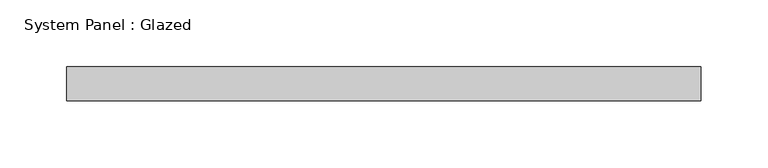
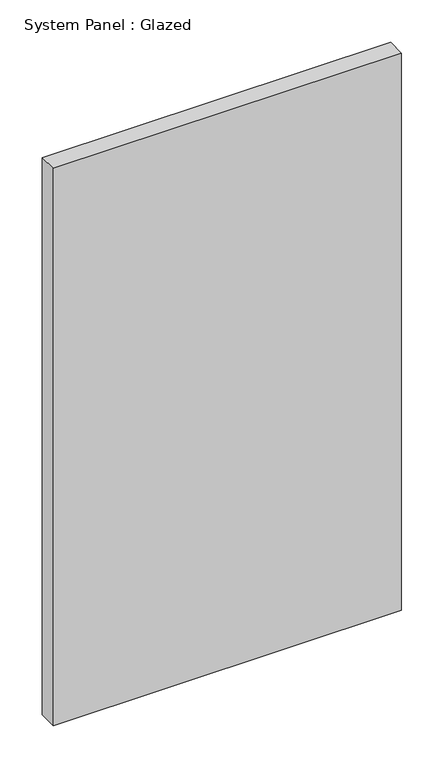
"""IFC4 building model written with IfcOpenShell, lengths in millimetres: plate geometry, System Panel : Glazed."""

from ifc_helpers import new_model, si_unit, origin, origin_with_axes, place, context, project, spatial, polyline, outline, extrude, source, transform, mapped, element, save


def system_panel_glazed_badf3451(model_context):
    return source(origin(), model_context, "Body", "SweptSolid", [
        extrude(outline(polyline([(237.1697515, -44.45), (-237.1697515, -44.45), (-237.1697515, -19.05), (237.1697515, -19.05), (237.1697515, -44.45)])), origin_with_axes(), (0.0, 0.0, 1.0), 802.4190025),
    ])


if __name__ == "__main__":
    model = new_model("IFC4")
    model_context = context("Model", 3, world=origin())
    ifc_project = project(units=[si_unit("LENGTHUNIT", "METRE", prefix="MILLI")], contexts=[model_context])
    site = spatial("IfcSite", under=ifc_project)
    building = spatial("IfcBuilding", under=site)
    placement = place(None, origin())
    system_panel_glazed_shape = system_panel_glazed_badf3451(model_context)
    element("IfcPlate", 1, ObjectType="System Panel : Glazed", at=placement, inside=building, context=model_context, shape_type="MappedRepresentation", body=[
        mapped(system_panel_glazed_shape, transform((0.0, 0.0, 0.0), x_axis=(1.0, 0.0, 0.0), y_axis=(0.0, 1.0, 0.0), z_axis=(0.0, 0.0, 1.0))),
    ])
    save(model, "model.ifc")
